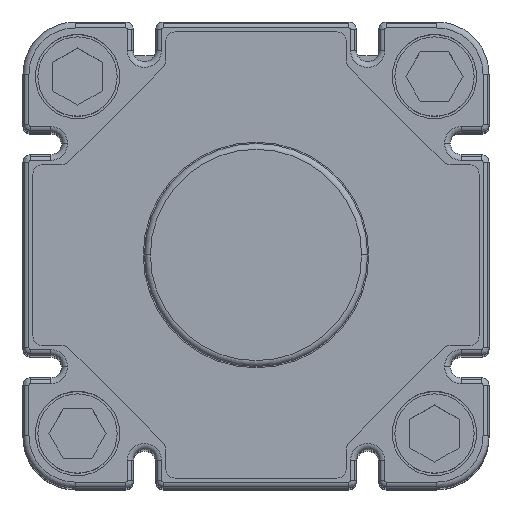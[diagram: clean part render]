
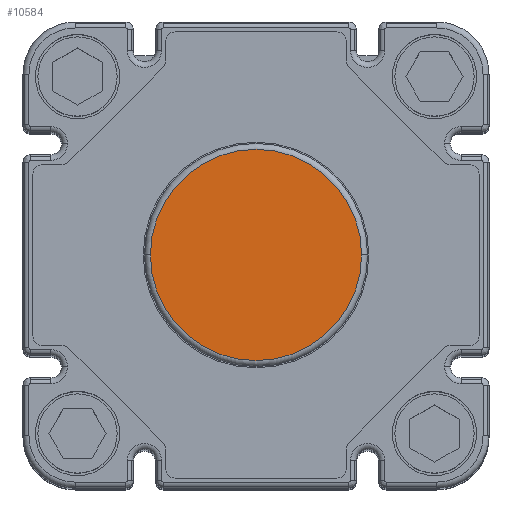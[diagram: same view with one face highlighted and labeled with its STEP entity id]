
A CAD part, top view. The second image highlights one B-rep face of the part: STEP entity #10584.
In plain terms, the highlighted planar face has unit normal (0, 0, 1).
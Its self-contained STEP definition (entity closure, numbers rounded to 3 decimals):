
#4200=CARTESIAN_POINT('',(-21.3,0.,198.5));
#4201=VERTEX_POINT('',#4200);
#4209=CARTESIAN_POINT('',(21.3,0.,198.5));
#4210=VERTEX_POINT('',#4209);
#4211=CARTESIAN_POINT('',(0.,0.,198.5));
#4212=DIRECTION('',(0.0,0.0,-1.0));
#4213=DIRECTION('',(-1.0,0.0,0.0));
#4214=AXIS2_PLACEMENT_3D('',#4211,#4212,#4213);
#4215=CIRCLE('',#4214,21.3);
#4216=EDGE_CURVE('',#4201,#4210,#4215,.T.);
#10553=CARTESIAN_POINT('',(0.,0.,198.5));
#10554=DIRECTION('',(0.0,0.0,-1.0));
#10555=DIRECTION('',(-1.0,0.0,0.0));
#10556=AXIS2_PLACEMENT_3D('',#10553,#10554,#10555);
#10557=CIRCLE('',#10556,21.3);
#10558=EDGE_CURVE('',#4210,#4201,#10557,.T.);
#10575=CARTESIAN_POINT('',(21.25,-21.25,198.5));
#10576=DIRECTION('',(0.0,0.0,1.0));
#10577=DIRECTION('',(1.0,0.0,0.0));
#10578=AXIS2_PLACEMENT_3D('',#10575,#10576,#10577);
#10579=PLANE('',#10578);
#10580=ORIENTED_EDGE('',*,*,#10558,.F.);
#10581=ORIENTED_EDGE('',*,*,#4216,.F.);
#10582=EDGE_LOOP('',(#10580,#10581));
#10583=FACE_OUTER_BOUND('',#10582,.T.);
#10584=ADVANCED_FACE('',(#10583),#10579,.T.);
